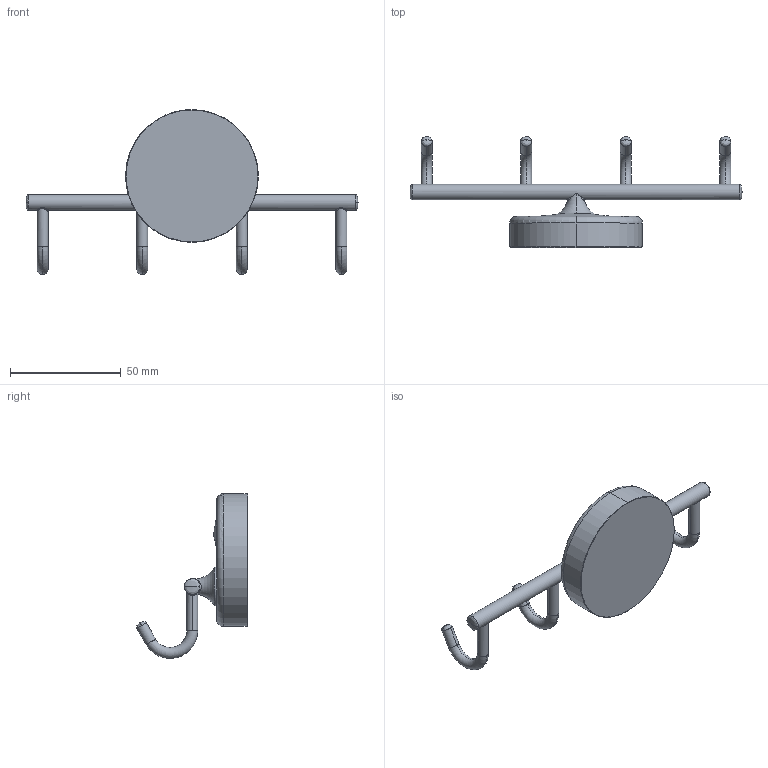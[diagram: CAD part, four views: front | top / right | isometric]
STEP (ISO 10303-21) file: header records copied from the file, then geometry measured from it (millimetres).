
FILE_DESCRIPTION(('THIS FILE CONTAINS SOME STEP INSTANCES'),'1');
FILE_NAME('ell_004.stp','2015-11-27T10:19:00',('UNDEFINED'),('UNDEFINED'),'T-FLEX CAD STEP converter','T-FLEX CAD','');
FILE_SCHEMA(('CONFIG_CONTROL_DESIGN'));
Length unit declared in the file: metre
Products named in the file (1): 3D 鐨飹懤艜_3
Bounding box: 150 x 50.19 x 74.47 mm (x, y, z)
Volume: 49210.9 mm3; surface area: 14946 mm2
Topology: 1 solids, 1 shells, 92 faces, 227 edges, 139 vertices
Faces by surface type: bspline 29, cylinder 26, torus 19, cone 10, plane 8
Entity records: 13180 total; most frequent: CARTESIAN_POINT 11504, ORIENTED_EDGE 454, EDGE_CURVE 227, DIRECTION 210, VERTEX_POINT 139, B_SPLINE_CURVE_WITH_KNOTS 96, EDGE_LOOP 94, ADVANCED_FACE 92
